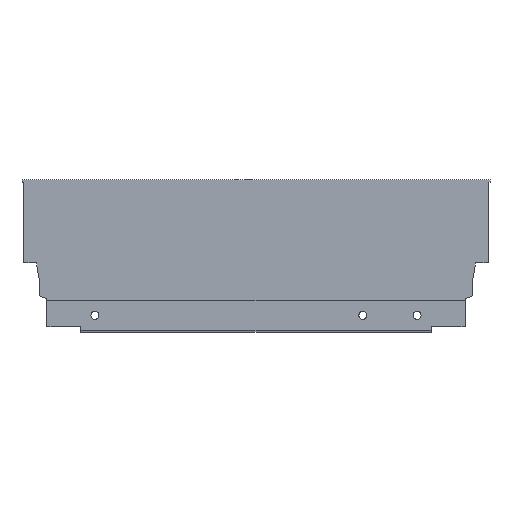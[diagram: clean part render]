
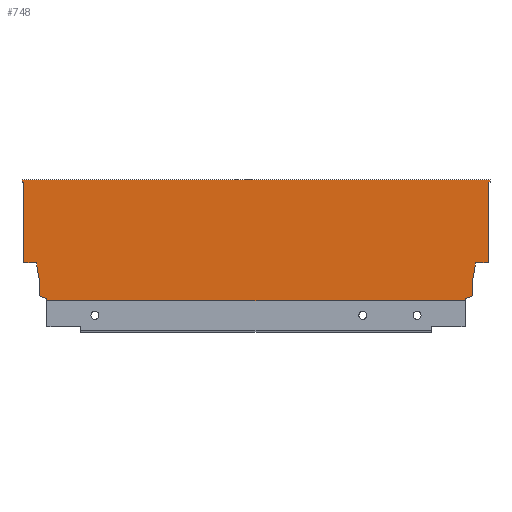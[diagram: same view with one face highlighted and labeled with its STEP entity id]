
A CAD part, top view. The second image highlights one B-rep face of the part: STEP entity #748.
In plain terms, the highlighted planar face has unit normal (0, 0, 1).
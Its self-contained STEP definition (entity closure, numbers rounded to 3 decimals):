
#1 = VERTEX_POINT ( 'NONE', #1384 ) ;
#2 = VERTEX_POINT ( 'NONE', #78 ) ;
#5 = VERTEX_POINT ( 'NONE', #1385 ) ;
#7 = VERTEX_POINT ( 'NONE', #1383 ) ;
#11 = VERTEX_POINT ( 'NONE', #84 ) ;
#22 = VERTEX_POINT ( 'NONE', #95 ) ;
#24 = VERTEX_POINT ( 'NONE', #97 ) ;
#25 = VERTEX_POINT ( 'NONE', #98 ) ;
#26 = VERTEX_POINT ( 'NONE', #99 ) ;
#27 = VERTEX_POINT ( 'NONE', #100 ) ;
#28 = VERTEX_POINT ( 'NONE', #101 ) ;
#30 = VERTEX_POINT ( 'NONE', #103 ) ;
#32 = VERTEX_POINT ( 'NONE', #105 ) ;
#45 = VERTEX_POINT ( 'NONE', #118 ) ;
#53 = VERTEX_POINT ( 'NONE', #126 ) ;
#64 = VERTEX_POINT ( 'NONE', #137 ) ;
#78 = CARTESIAN_POINT ( 'NONE',  ( -7.06, 21.2, 7.5 ) ) ;
#84 = CARTESIAN_POINT ( 'NONE',  ( -253.94, 21.2, 7.5 ) ) ;
#95 = CARTESIAN_POINT ( 'NONE',  ( -261., 21.2, 7.5 ) ) ;
#97 = CARTESIAN_POINT ( 'NONE',  ( -261., 66.5, 7.5 ) ) ;
#98 = CARTESIAN_POINT ( 'NONE',  ( 1., 68., 7.5 ) ) ;
#99 = CARTESIAN_POINT ( 'NONE',  ( -13.004, 1.146, 7.5 ) ) ;
#100 = CARTESIAN_POINT ( 'NONE',  ( 1., 66.5, 7.5 ) ) ;
#101 = CARTESIAN_POINT ( 'NONE',  ( -13.004, 0., 7.5 ) ) ;
#103 = CARTESIAN_POINT ( 'NONE',  ( -8.9, 10.765, 7.5 ) ) ;
#105 = CARTESIAN_POINT ( 'NONE',  ( -247.996, 1.146, 7.5 ) ) ;
#118 = CARTESIAN_POINT ( 'NONE',  ( -262., 68., 7.5 ) ) ;
#126 = CARTESIAN_POINT ( 'NONE',  ( -262., 66.5, 7.5 ) ) ;
#137 = CARTESIAN_POINT ( 'NONE',  ( -247.996, 0., 7.5 ) ) ;
#344 = PLANE ( 'NONE',  #1660 ) ;
#347 = CARTESIAN_POINT ( 'NONE',  ( -261., 0., 7.5 ) ) ;
#353 = DIRECTION ( 'NONE',  ( 0., 0., 1. ) ) ;
#354 = DIRECTION ( 'NONE',  ( 1., 0., 0. ) ) ;
#360 = CARTESIAN_POINT ( 'NONE',  ( 0., 66.5, 7.5 ) ) ;
#369 = CARTESIAN_POINT ( 'NONE',  ( -252.1, 2.64, 7.5 ) ) ;
#384 = CARTESIAN_POINT ( 'NONE',  ( 0., 0., 7.5 ) ) ;
#394 = DIRECTION ( 'NONE',  ( 0., -1., 0. ) ) ;
#427 = CARTESIAN_POINT ( 'NONE',  ( -261., 0., 7.5 ) ) ;
#432 = CARTESIAN_POINT ( 'NONE',  ( -253.94, 21.2, 7.5 ) ) ;
#433 = DIRECTION ( 'NONE',  ( 1., 0., 0. ) ) ;
#434 = CARTESIAN_POINT ( 'NONE',  ( -262., 66.5, 7.5 ) ) ;
#435 = DIRECTION ( 'NONE',  ( -0.174, 0.985, 0. ) ) ;
#436 = CARTESIAN_POINT ( 'NONE',  ( -262., 66.5, 7.5 ) ) ;
#437 = DIRECTION ( 'NONE',  ( 1., 0., 0. ) ) ;
#440 = CARTESIAN_POINT ( 'NONE',  ( -266., 21.2, 7.5 ) ) ;
#441 = DIRECTION ( 'NONE',  ( -1., 0., 0. ) ) ;
#442 = CARTESIAN_POINT ( 'NONE',  ( -261., 68., 7.5 ) ) ;
#443 = DIRECTION ( 'NONE',  ( 0., 1., 0. ) ) ;
#444 = CARTESIAN_POINT ( 'NONE',  ( -261., 0., 7.5 ) ) ;
#445 = DIRECTION ( 'NONE',  ( 1., 0., 0. ) ) ;
#446 = CARTESIAN_POINT ( 'NONE',  ( -252.1, 2.64, 7.5 ) ) ;
#447 = DIRECTION ( 'NONE',  ( 0., -1., 0. ) ) ;
#448 = CARTESIAN_POINT ( 'NONE',  ( -252.1, 10.765, 7.5 ) ) ;
#449 = DIRECTION ( 'NONE',  ( 0., 1., 0. ) ) ;
#450 = CARTESIAN_POINT ( 'NONE',  ( -247.996, 1.146, 7.5 ) ) ;
#451 = DIRECTION ( 'NONE',  ( -0.94, 0.342, 0. ) ) ;
#452 = CARTESIAN_POINT ( 'NONE',  ( -13.004, 1.146, 7.5 ) ) ;
#453 = DIRECTION ( 'NONE',  ( 0., 1., 0. ) ) ;
#454 = CARTESIAN_POINT ( 'NONE',  ( -8.9, 10.765, 7.5 ) ) ;
#455 = DIRECTION ( 'NONE',  ( 0., -1., 0. ) ) ;
#456 = CARTESIAN_POINT ( 'NONE',  ( -8.9, 2.64, 7.5 ) ) ;
#457 = DIRECTION ( 'NONE',  ( 0., -1., 0. ) ) ;
#458 = CARTESIAN_POINT ( 'NONE',  ( -7.06, 21.2, 7.5 ) ) ;
#459 = DIRECTION ( 'NONE',  ( -0.174, -0.985, 0. ) ) ;
#460 = CARTESIAN_POINT ( 'NONE',  ( 0., 21.2, 7.5 ) ) ;
#461 = DIRECTION ( 'NONE',  ( -0.94, -0.342, 0. ) ) ;
#463 = DIRECTION ( 'NONE',  ( -1., 0., 0. ) ) ;
#464 = CARTESIAN_POINT ( 'NONE',  ( 1., 66.5, 7.5 ) ) ;
#467 = DIRECTION ( 'NONE',  ( -1., 0., 0. ) ) ;
#468 = CARTESIAN_POINT ( 'NONE',  ( 1., 68., 7.5 ) ) ;
#471 = DIRECTION ( 'NONE',  ( 0., -1., 0. ) ) ;
#748 = ADVANCED_FACE ( 'NONE', ( #1157 ), #344, .T. ) ;
#933 = ORIENTED_EDGE ( 'NONE', *, *, #1511, .F. ) ;
#934 = ORIENTED_EDGE ( 'NONE', *, *, #1509, .F. ) ;
#935 = ORIENTED_EDGE ( 'NONE', *, *, #1475, .F. ) ;
#936 = ORIENTED_EDGE ( 'NONE', *, *, #1507, .F. ) ;
#937 = ORIENTED_EDGE ( 'NONE', *, *, #1505, .F. ) ;
#938 = ORIENTED_EDGE ( 'NONE', *, *, #1503, .F. ) ;
#939 = ORIENTED_EDGE ( 'NONE', *, *, #1506, .F. ) ;
#940 = ORIENTED_EDGE ( 'NONE', *, *, #1504, .F. ) ;
#941 = ORIENTED_EDGE ( 'NONE', *, *, #1492, .T. ) ;
#942 = ORIENTED_EDGE ( 'NONE', *, *, #1502, .F. ) ;
#943 = ORIENTED_EDGE ( 'NONE', *, *, #1501, .F. ) ;
#944 = ORIENTED_EDGE ( 'NONE', *, *, #1500, .F. ) ;
#945 = ORIENTED_EDGE ( 'NONE', *, *, #1493, .F. ) ;
#946 = ORIENTED_EDGE ( 'NONE', *, *, #1496, .F. ) ;
#947 = ORIENTED_EDGE ( 'NONE', *, *, #1499, .T. ) ;
#948 = ORIENTED_EDGE ( 'NONE', *, *, #1494, .T. ) ;
#949 = ORIENTED_EDGE ( 'NONE', *, *, #1497, .F. ) ;
#950 = ORIENTED_EDGE ( 'NONE', *, *, #1498, .F. ) ;
#1092 = EDGE_LOOP ( 'NONE', ( #950, #949, #948, #947, #946, #945, #944, #943, #942, #941, #940, #939, #938, #937, #936, #935, #934, #933 ) ) ;
#1157 = FACE_OUTER_BOUND ( 'NONE', #1092, .T. ) ;
#1179 = LINE ( 'NONE', #384, #1181 ) ;
#1181 = VECTOR ( 'NONE', #394, 1000. ) ;
#1203 = LINE ( 'NONE', #434, #1214 ) ;
#1206 = VECTOR ( 'NONE', #433, 1000. ) ;
#1207 = LINE ( 'NONE', #432, #1212 ) ;
#1208 = LINE ( 'NONE', #436, #1220 ) ;
#1210 = LINE ( 'NONE', #427, #1206 ) ;
#1212 = VECTOR ( 'NONE', #435, 1000. ) ;
#1213 = LINE ( 'NONE', #442, #1222 ) ;
#1214 = VECTOR ( 'NONE', #437, 1000. ) ;
#1215 = LINE ( 'NONE', #444, #1224 ) ;
#1218 = LINE ( 'NONE', #440, #1219 ) ;
#1219 = VECTOR ( 'NONE', #441, 1000. ) ;
#1220 = VECTOR ( 'NONE', #443, 1000. ) ;
#1221 = LINE ( 'NONE', #446, #1228 ) ;
#1222 = VECTOR ( 'NONE', #445, 1000. ) ;
#1223 = LINE ( 'NONE', #450, #1230 ) ;
#1224 = VECTOR ( 'NONE', #447, 1000. ) ;
#1225 = LINE ( 'NONE', #452, #1234 ) ;
#1226 = LINE ( 'NONE', #448, #1227 ) ;
#1227 = VECTOR ( 'NONE', #449, 1000. ) ;
#1228 = VECTOR ( 'NONE', #451, 1000. ) ;
#1229 = LINE ( 'NONE', #456, #1238 ) ;
#1230 = VECTOR ( 'NONE', #453, 1000. ) ;
#1231 = LINE ( 'NONE', #460, #1240 ) ;
#1232 = LINE ( 'NONE', #454, #1233 ) ;
#1233 = VECTOR ( 'NONE', #455, 1000. ) ;
#1234 = VECTOR ( 'NONE', #457, 1000. ) ;
#1236 = LINE ( 'NONE', #458, #1237 ) ;
#1237 = VECTOR ( 'NONE', #459, 1000. ) ;
#1238 = VECTOR ( 'NONE', #461, 1000. ) ;
#1239 = LINE ( 'NONE', #464, #1244 ) ;
#1240 = VECTOR ( 'NONE', #463, 1000. ) ;
#1243 = LINE ( 'NONE', #468, #1248 ) ;
#1244 = VECTOR ( 'NONE', #467, 1000. ) ;
#1248 = VECTOR ( 'NONE', #471, 1000. ) ;
#1383 = CARTESIAN_POINT ( 'NONE',  ( -252.1, 10.765, 7.5 ) ) ;
#1384 = CARTESIAN_POINT ( 'NONE',  ( -8.9, 2.64, 7.5 ) ) ;
#1385 = CARTESIAN_POINT ( 'NONE',  ( 0., 21.2, 7.5 ) ) ;
#1387 = VERTEX_POINT ( 'NONE', #360 ) ;
#1398 = VERTEX_POINT ( 'NONE', #369 ) ;
#1475 = EDGE_CURVE ( 'NONE', #1387, #5, #1179, .T. ) ;
#1492 = EDGE_CURVE ( 'NONE', #64, #28, #1210, .T. ) ;
#1493 = EDGE_CURVE ( 'NONE', #7, #11, #1207, .T. ) ;
#1494 = EDGE_CURVE ( 'NONE', #53, #24, #1203, .T. ) ;
#1496 = EDGE_CURVE ( 'NONE', #11, #22, #1218, .T. ) ;
#1497 = EDGE_CURVE ( 'NONE', #53, #45, #1208, .T. ) ;
#1498 = EDGE_CURVE ( 'NONE', #45, #25, #1213, .T. ) ;
#1499 = EDGE_CURVE ( 'NONE', #24, #22, #1215, .T. ) ;
#1500 = EDGE_CURVE ( 'NONE', #1398, #7, #1226, .T. ) ;
#1501 = EDGE_CURVE ( 'NONE', #32, #1398, #1221, .T. ) ;
#1502 = EDGE_CURVE ( 'NONE', #64, #32, #1223, .T. ) ;
#1503 = EDGE_CURVE ( 'NONE', #30, #1, #1232, .T. ) ;
#1504 = EDGE_CURVE ( 'NONE', #26, #28, #1225, .T. ) ;
#1505 = EDGE_CURVE ( 'NONE', #2, #30, #1236, .T. ) ;
#1506 = EDGE_CURVE ( 'NONE', #1, #26, #1229, .T. ) ;
#1507 = EDGE_CURVE ( 'NONE', #5, #2, #1231, .T. ) ;
#1509 = EDGE_CURVE ( 'NONE', #27, #1387, #1239, .T. ) ;
#1511 = EDGE_CURVE ( 'NONE', #25, #27, #1243, .T. ) ;
#1660 = AXIS2_PLACEMENT_3D ( 'NONE', #347, #353, #354 ) ;
